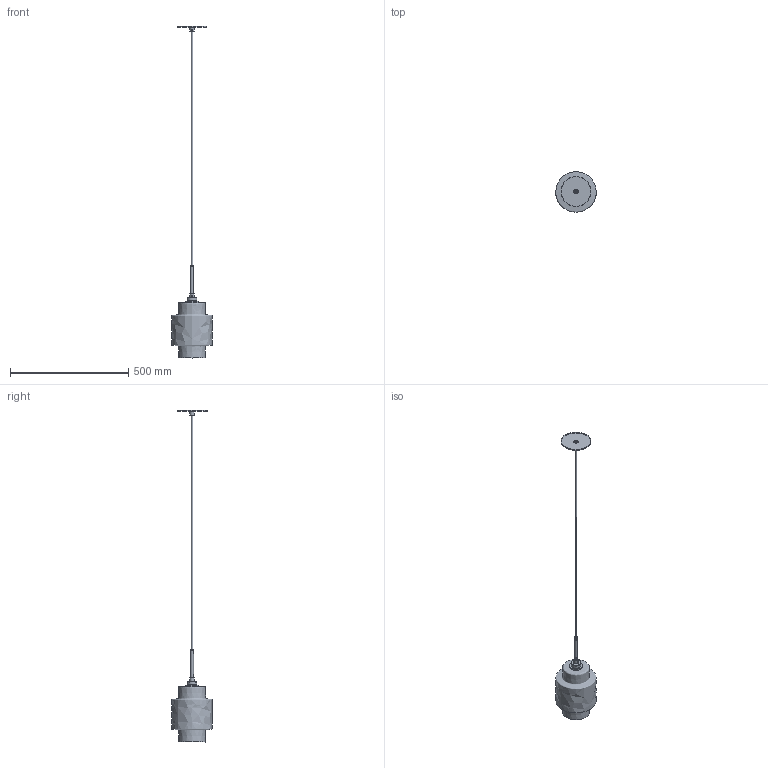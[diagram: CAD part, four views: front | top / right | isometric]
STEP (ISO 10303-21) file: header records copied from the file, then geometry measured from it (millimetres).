
FILE_DESCRIPTION(/* description */ (''),/* implementation_level */ '2;1');
FILE_NAME(/* name */ 'C:/Users/zach/Niche/Product Development - Documents/CAD Models/Pendants/Axia/Glass - Luxe Hardware/Niche - Axia Pendant.step',/* time_stamp */ '2022-09-26T09:45:46-04:00',/* author */ (''),/* organization */ (''),/* preprocessor_version */ 'ST-DEVELOPER v19',/* originating_system */ 'Autodesk Translation Framework v11.7.0.108',/* authorisation */ '');
FILE_SCHEMA (('AUTOMOTIVE_DESIGN { 1 0 10303 214 3 1 1 }'));
Length unit declared in the file: inch
Products named in the file (1): Axia
Bounding box: 171.45 x 171.45 x 1406.43 mm (x, y, z)
Volume: 751928.2 mm3; surface area: 377319.7 mm2
Topology: 11 solids, 11 shells, 185 faces, 471 edges, 313 vertices
Faces by surface type: cylinder 124, plane 48, bspline 11, cone 1, sphere 1
Full cylindrical faces by diameter (mm): 4.529 x1, 5.08 x1, 6.096 x1, 6.35 x1, 6.5 x1, 7.62 x1, 7.744 x7, 8.036 x15, 8.852 x1, 8.884 x8, 9.035 x1, 9.146 x11, 10.16 x1, 12.7 x2, 19.05 x1, 19.2 x1, 25.4 x1, 26.022 x1, 34.97 x1, 35.052 x9, 37.85 x8, 39 x1, 39.35 x1, 41.035 x1, 41.2 x1, 41.884 x1, 44 x1, 44.45 x1, 55 x2, 125.476 x1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
Entity records: 14513 total; most frequent: CARTESIAN_POINT 10346, ORIENTED_EDGE 940, DIRECTION 679, EDGE_CURVE 470, VERTEX_POINT 313, AXIS2_PLACEMENT_3D 256, B_SPLINE_CURVE_WITH_KNOTS 220, EDGE_LOOP 215
